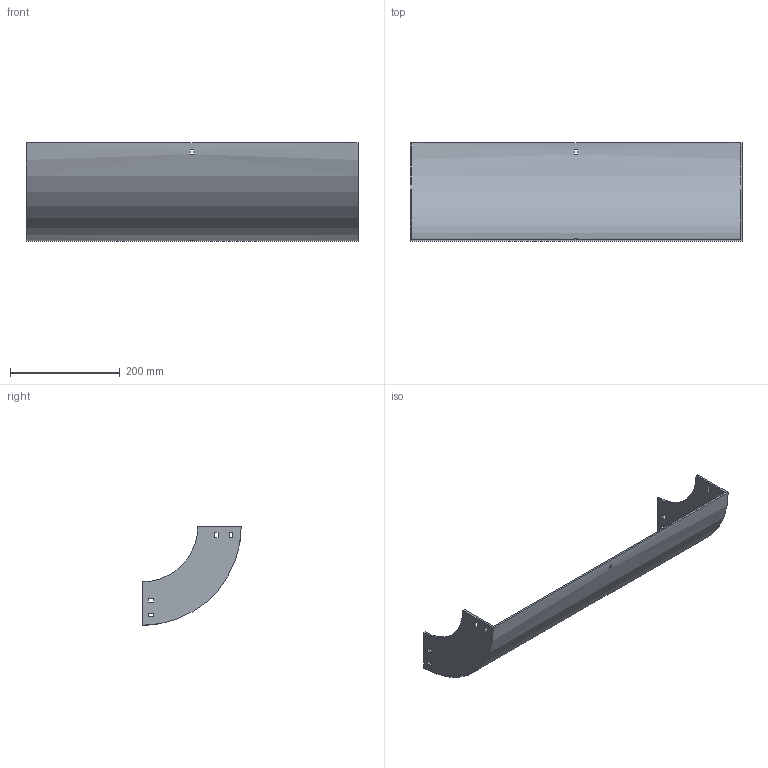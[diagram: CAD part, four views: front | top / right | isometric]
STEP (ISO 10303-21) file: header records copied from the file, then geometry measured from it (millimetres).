
FILE_DESCRIPTION (( 'STEP AP214' ), '1' );
FILE_NAME ('30B1C600.step', '2025-02-21T09:51:06', ( '' ), ( '' ), 'SwSTEP 2.0', 'SolidWorks 2023', '' );
FILE_SCHEMA (( 'AUTOMOTIVE_DESIGN' ));
Length unit declared in the file: millimetre
Products named in the file (1): 30B1C600
Bounding box: 604 x 179 x 179 mm (x, y, z)
Volume: 700571.6 mm3; surface area: 407900.4 mm2
Topology: 1 solids, 1 shells, 50 faces, 144 edges, 96 vertices
Faces by surface type: plane 46, cylinder 4
Entity records: 1687 total; most frequent: CARTESIAN_POINT 291, ORIENTED_EDGE 288, DIRECTION 262, EDGE_CURVE 144, VECTOR 128, LINE 128, VERTEX_POINT 96, EDGE_LOOP 70
